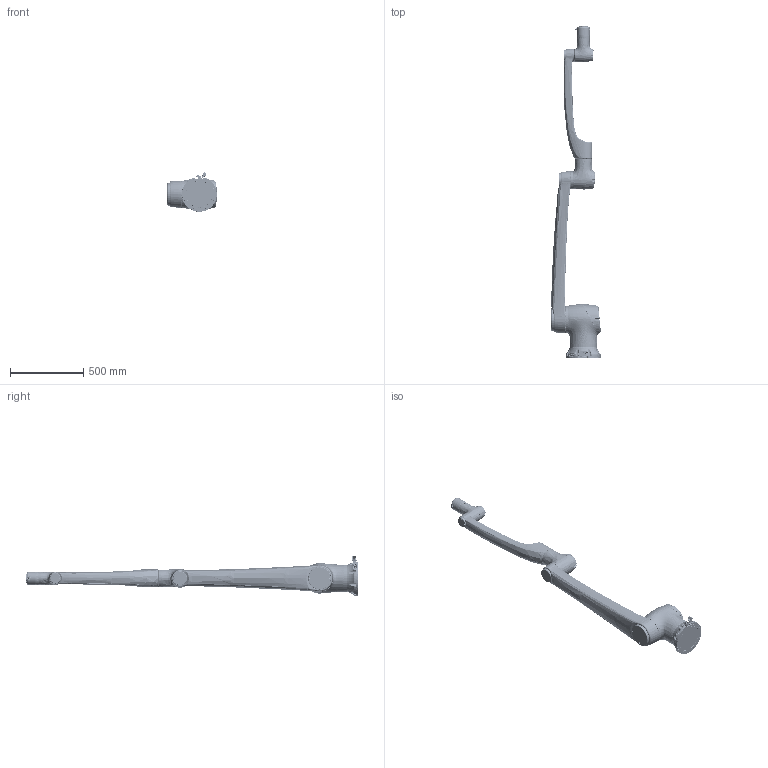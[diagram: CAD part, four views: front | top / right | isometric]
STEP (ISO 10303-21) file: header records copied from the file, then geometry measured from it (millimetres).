
FILE_DESCRIPTION (( 'STEP AP203' ), '1' );
FILE_NAME ('E12-Pro_wfmx_20240411.STEP', '2024-08-12T06:55:18', ( '' ), ( '' ), 'SwSTEP 2.0', 'SolidWorks 2022', '' );
FILE_SCHEMA (( 'CONFIG_CONTROL_DESIGN' ));
Length unit declared in the file: millimetre
Products named in the file (88): E15F_HRMD-25120FENE-PT-01 防爆双轴关节模组_简化版 (03.90.2881)_简化; M4×25内六角圆柱头螺钉GB／T70．1-2000_简化; HREF-01-04-06-18A1 40关节外壳_防爆(亮光白)（19.92.51281）_简化; 六角支柱_RBE16-S6-L20-M4-N4_怡合达_简化_BSLCG5.5-20; MK2_17轴中通线缆_简化; O型圈_88x1.5(内径x线径) 丁腈橡胶_简化; O型圈_100x2(内径x线径) 丁腈橡胶_简化; LHT-40-U-I_简化; MISUMI_六角支柱_BSLCG5_5_10_IP66_B PLAN_20190806_1.1_简化_BSLCG5.5-10; HREF-01-04-01-165A1 25关节外壳YZ (19.92.35242)_简化; HREF-01-04-04-125A1 17模组后端盖 (19.92.44162)_简化_增加锥形孔; MISUMI_六角支柱_SLSBWRK6_30_简化_LSBWRK6-35; HREF-01-04-01-203A1 25模组后端盖 (19.92.44232)_简化_增加锥形孔; GB／T70．1-2000内六角圆柱头螺钉M4×35_简化; HREF-01-04-04-109A 输出转接板_简化; E10F-XL下臂（机加）_简化; M4×20内六角圆柱头螺钉GB／T70．1-2000_简化; Elfin_底座组件_插头卡环_简化; HREF-01-03-309A E15F下臂上侧盖_简化; HREF-01-04-01-183A3 25轴端垫圈ch1_防爆 (19.92.39642)_简化; Elfin_底座组件_插头盖_简化; E12-Pro_wfmx_20240411; GB／T70．1-2000内六角圆柱头螺钉M4×10_简化; E1406A-11-01-35A 输出转接板_简化; HREF-01-04-04-95A1 17轴关节外壳YZ (19.92.35522)_简化; M3×6内六角圆柱头螺钉GB／T70．1-2000_简化; MK2_17轴中通线缆组件_简化; RBE16-S6-L50-M4-N4 怡合达_简化_BSLCG5.5-20; 十字槽小盘头组合螺钉 M3x10_简化; E10F-XL下臂组件_简化; Elfin_25系列单轴子模块_HD_简化; M6×60内六角圆柱头螺钉GB／T70．1-2000_简化; O型圈_72x1.5(内径x线径) 丁腈橡胶_简化; M4×8内六角圆柱头螺钉GB／T70．1-2000_简化; E10F-P上臂上臂顶_20240127_简化; E15F_HRMD-17100FENE-PT-01 防爆双轴关节模组_简化版 (03.90.2871)_简化; HREF-01-04-06-15A2 40轴端垫圈ch1_防爆 (19.92.51253)_简化; E10F-XL上臂（机加）_简化; HREF-01-03-665 E15F 防爆底座盖板_简化; 40模组输出端轴承支撑板_简化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
Assembly tree (327 placements, depth 5):
  E12-Pro_wfmx_20240411
    HREF-E15F02FENE-PT-1300-01 底座组件（矮版）_简化
      HREF-01-03-665 E15F 防爆底座盖板_简化
      M4×8内六角圆柱头螺钉GB／T70．1-2000_简化  x4
      六角支柱_RBE16-S6-L15-M4-N4_怡合达_简化_BSLCG5.5-20  x4
      M3x8十字槽沉头螺钉GB／T819．2-1986_简化  x8
      M6×45内六角圆柱头螺钉GB／T70．1-2000_简化  x16
      J-XXB02-D8-2_简化  x2
      HREF-01-03-304A E15F底座（机加）_简化
      Elfin_底座插头_简化
        Elfin_底座组件_插头座_简化
        Elfin_底座组件_插头盖_简化
        Elfin_底座组件_插头卡环_简化
    E15F_HRMD-40120FENE-PT-03 防爆双轴关节模组_简化版 (03.90.5981)_简化
      HREF-01-04-06-18A1 40关节外壳_防爆(亮光白)（19.92.51281）_简化
      六角支柱_RBE16-S6-L50-M4-N4_怡合达_简化_BSLCG5.5-20  x3
      十字槽小盘头组合螺钉 M3x10_简化  x4
      M3×10内六角圆柱头螺钉GB／T70．1-2000_简化  x2
      HRMD-40120FES-CT-00 关节模组-40_简化  x2
        LHT-40-U-I_简化
          40模组输出端轴承支撑板_简化
          GB／T70．1-2000内六角圆柱头螺钉M5×30_简化  x4
        HREF-01-04-06-12A 轴承端盖-40_简化
        HREF-01-04-02-148A固线块-2025_简化
        GB／T70．1-2000内六角圆柱头螺钉M4×10_简化
        线束模型_简化
        40模组_E15F_简化模型_20240204_简化
      M6×60内六角圆柱头螺钉GB／T70．1-2000_简化  x24
      HREF-01-04-06-25A 40模组后端盖YZ (19.92.65951)_简化
      M4×25内六角圆柱头螺钉GB／T70．1-2000_简化
      M4×20内六角圆柱头螺钉GB／T70．1-2000_简化  x3
      HREF-01-04-06-19A 40模组后盖密封垫_简化
      HREF-01-04-06-15A2 40轴端垫圈ch1_防爆 (19.92.51253)_简化
      HREF-01-04-06-16A2 40轴端垫圈ch2_防爆 (19.92.51263)_简化
    E10F-XL下臂组件_简化
      E10F-XL下臂（机加）_简化
      HREF-01-03-310A E15F下臂下侧盖_简化
      六角支柱_RBE16-S6-L15-M4-N4_怡合达_简化_BSLCG5.5-20  x6
      六角支柱_RBE16-S6-L20-M4-N4_怡合达_简化_BSLCG5.5-20  x2
      HREF-01-03-309A E15F下臂上侧盖_简化
      M6×45内六角圆柱头螺钉GB／T70．1-2000_简化  x16
      M4×20内六角圆柱头螺钉GB／T70．1-2000_简化  x16
      M4×14内六角圆柱头螺钉GB／T70．1-2000_简化  x4
      M3×6内六角圆柱头螺钉GB／T70．1-2000_简化
      O型圈_146x1.5(内径x线径) 丁腈橡胶_简化
      O型圈_88x1.5(内径x线径) 丁腈橡胶_简化
    E15F_HRMD-25120FENE-PT-01 防爆双轴关节模组_简化版 (03.90.2881)_简化
      HREF-01-04-01-165A1 25关节外壳YZ (19.92.35242)_简化
      Elfin_25系列单轴子模块_HD_简化  x2
        O型圈_68x1(内径x线径) 丁腈橡胶_简化
        Elfin_25轴中通线缆_简化
        MISUMI_橡胶护套_C30-BW-6-1-5P_简化
        E1406A-11-01-50A 护线板_简化
        E1406A-11-01-13A 束线块_简化
        E1406A-11-01-31A 前端盖_简化
        E1406A-11-01-11A 中空轴_简化
        E1406A-11-01-35A 输出转接板_简化
        M4×20内六角圆柱头螺钉GB／T70．1-2000_简化
        25模组_E15F_简化模型_20240204_简化
      M4×45六角圆柱头螺钉GB／T70．1-2000内_简化  x24
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Bounding box: 337.54 x 2262.13 x 269.11 mm (x, y, z)
Volume: 16859255.4 mm3; surface area: 3812642.2 mm2
Topology: 510 solids, 517 shells, 18247 faces, 42431 edges, 25789 vertices
Faces by surface type: plane 5573, cylinder 5521, cone 3382, bspline 1859, torus 1822, sphere 90
Entity records: 741928 total; most frequent: CARTESIAN_POINT 488891, ORIENTED_EDGE 50158, DIRECTION 48820, EDGE_CURVE 25079, AXIS2_PLACEMENT_3D 20347, VERTEX_POINT 15443, EDGE_LOOP 11996, CIRCLE 11276
